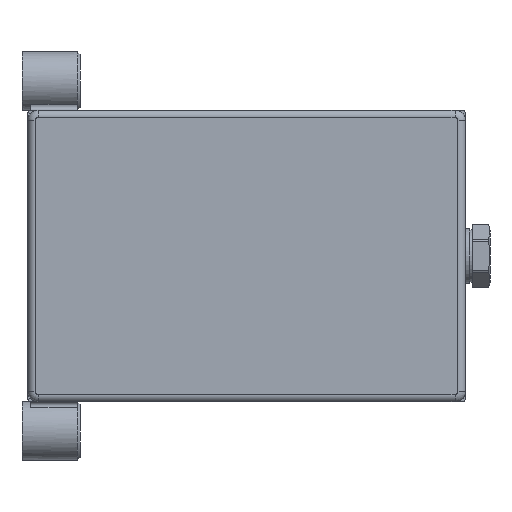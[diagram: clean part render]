
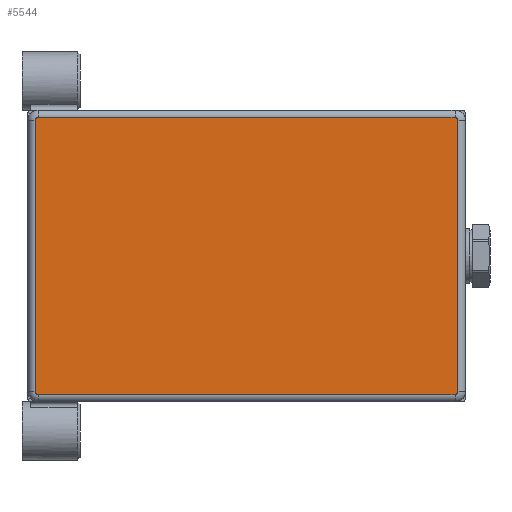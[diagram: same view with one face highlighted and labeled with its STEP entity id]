
A CAD part, front view. The second image highlights one B-rep face of the part: STEP entity #5544.
In plain terms, the highlighted planar face has unit normal (0, -1, 0).
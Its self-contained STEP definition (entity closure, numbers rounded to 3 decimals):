
#187 = CARTESIAN_POINT ( 'NONE',  ( -72.5, -3., -46.5 ) ) ;
#321 = VECTOR ( 'NONE', #1757, 1000. ) ;
#337 = CIRCLE ( 'NONE', #1374, 1. ) ;
#445 = DIRECTION ( 'NONE',  ( -1., 0., 0. ) ) ;
#476 = EDGE_CURVE ( 'NONE', #5140, #3856, #5287, .T. ) ;
#522 = ORIENTED_EDGE ( 'NONE', *, *, #3800, .F. ) ;
#568 = ORIENTED_EDGE ( 'NONE', *, *, #4368, .F. ) ;
#591 = DIRECTION ( 'NONE',  ( -1., 0., 0. ) ) ;
#665 = LINE ( 'NONE', #187, #2017 ) ;
#823 = ORIENTED_EDGE ( 'NONE', *, *, #476, .F. ) ;
#834 = CARTESIAN_POINT ( 'NONE',  ( -71.5, -3., 47.5 ) ) ;
#920 = DIRECTION ( 'NONE',  ( -1., 0., 0. ) ) ;
#986 = CARTESIAN_POINT ( 'NONE',  ( 72.5, -3., 46.5 ) ) ;
#1026 = DIRECTION ( 'NONE',  ( 0., -1., 0. ) ) ;
#1192 = VERTEX_POINT ( 'NONE', #3685 ) ;
#1374 = AXIS2_PLACEMENT_3D ( 'NONE', #2192, #5216, #920 ) ;
#1412 = VERTEX_POINT ( 'NONE', #3365 ) ;
#1457 = LINE ( 'NONE', #3530, #321 ) ;
#1463 = AXIS2_PLACEMENT_3D ( 'NONE', #3434, #5135, #445 ) ;
#1608 = CARTESIAN_POINT ( 'NONE',  ( 71.5, -3., -47.5 ) ) ;
#1621 = DIRECTION ( 'NONE',  ( 1., 0., 0. ) ) ;
#1757 = DIRECTION ( 'NONE',  ( -1., 0., 0. ) ) ;
#1907 = EDGE_LOOP ( 'NONE', ( #568, #2252, #1945, #2121, #823, #4590, #522, #3487 ) ) ;
#1908 = CARTESIAN_POINT ( 'NONE',  ( -71.5, -3., 47.5 ) ) ;
#1945 = ORIENTED_EDGE ( 'NONE', *, *, #3835, .F. ) ;
#1995 = FACE_OUTER_BOUND ( 'NONE', #1907, .T. ) ;
#2017 = VECTOR ( 'NONE', #2685, 1000. ) ;
#2121 = ORIENTED_EDGE ( 'NONE', *, *, #4164, .F. ) ;
#2148 = CARTESIAN_POINT ( 'NONE',  ( -72.5, -3., 46.5 ) ) ;
#2158 = DIRECTION ( 'NONE',  ( 0., 0., -1. ) ) ;
#2192 = CARTESIAN_POINT ( 'NONE',  ( 71.5, -3., -46.5 ) ) ;
#2252 = ORIENTED_EDGE ( 'NONE', *, *, #3344, .T. ) ;
#2256 = VERTEX_POINT ( 'NONE', #1608 ) ;
#2290 = AXIS2_PLACEMENT_3D ( 'NONE', #4535, #5004, #4959 ) ;
#2356 = VECTOR ( 'NONE', #3598, 1000. ) ;
#2587 = EDGE_CURVE ( 'NONE', #5140, #2840, #3102, .T. ) ;
#2685 = DIRECTION ( 'NONE',  ( 0., 0., 1. ) ) ;
#2840 = VERTEX_POINT ( 'NONE', #2148 ) ;
#2981 = CARTESIAN_POINT ( 'NONE',  ( 72.5, -3., -46.5 ) ) ;
#3017 = DIRECTION ( 'NONE',  ( 0., 1., 0. ) ) ;
#3102 = CIRCLE ( 'NONE', #3193, 1. ) ;
#3193 = AXIS2_PLACEMENT_3D ( 'NONE', #3218, #1026, #591 ) ;
#3218 = CARTESIAN_POINT ( 'NONE',  ( -71.5, -3., 46.5 ) ) ;
#3318 = LINE ( 'NONE', #986, #2356 ) ;
#3344 = EDGE_CURVE ( 'NONE', #2256, #4950, #337, .T. ) ;
#3365 = CARTESIAN_POINT ( 'NONE',  ( -71.5, -3., -47.5 ) ) ;
#3370 = CIRCLE ( 'NONE', #5379, 1. ) ;
#3412 = VECTOR ( 'NONE', #1621, 1000. ) ;
#3434 = CARTESIAN_POINT ( 'NONE',  ( 0., -3., 0. ) ) ;
#3487 = ORIENTED_EDGE ( 'NONE', *, *, #5365, .T. ) ;
#3530 = CARTESIAN_POINT ( 'NONE',  ( 71.5, -3., -47.5 ) ) ;
#3598 = DIRECTION ( 'NONE',  ( 0., 0., -1. ) ) ;
#3684 = VERTEX_POINT ( 'NONE', #3919 ) ;
#3685 = CARTESIAN_POINT ( 'NONE',  ( 72.5, -3., 46.5 ) ) ;
#3800 = EDGE_CURVE ( 'NONE', #3684, #2840, #665, .T. ) ;
#3835 = EDGE_CURVE ( 'NONE', #1192, #4950, #3318, .T. ) ;
#3856 = VERTEX_POINT ( 'NONE', #4888 ) ;
#3919 = CARTESIAN_POINT ( 'NONE',  ( -72.5, -3., -46.5 ) ) ;
#4164 = EDGE_CURVE ( 'NONE', #3856, #1192, #3370, .T. ) ;
#4317 = PLANE ( 'NONE',  #1463 ) ;
#4368 = EDGE_CURVE ( 'NONE', #2256, #1412, #1457, .T. ) ;
#4535 = CARTESIAN_POINT ( 'NONE',  ( -71.5, -3., -46.5 ) ) ;
#4590 = ORIENTED_EDGE ( 'NONE', *, *, #2587, .T. ) ;
#4722 = CARTESIAN_POINT ( 'NONE',  ( 71.5, -3., 46.5 ) ) ;
#4752 = CIRCLE ( 'NONE', #2290, 1. ) ;
#4888 = CARTESIAN_POINT ( 'NONE',  ( 71.5, -3., 47.5 ) ) ;
#4950 = VERTEX_POINT ( 'NONE', #2981 ) ;
#4959 = DIRECTION ( 'NONE',  ( -1., 0., 0. ) ) ;
#5004 = DIRECTION ( 'NONE',  ( 0., -1., 0. ) ) ;
#5135 = DIRECTION ( 'NONE',  ( 0., -1., 0. ) ) ;
#5140 = VERTEX_POINT ( 'NONE', #1908 ) ;
#5216 = DIRECTION ( 'NONE',  ( 0., -1., 0. ) ) ;
#5287 = LINE ( 'NONE', #834, #3412 ) ;
#5365 = EDGE_CURVE ( 'NONE', #3684, #1412, #4752, .T. ) ;
#5379 = AXIS2_PLACEMENT_3D ( 'NONE', #4722, #3017, #2158 ) ;
#5544 = ADVANCED_FACE ( 'NONE', ( #1995 ), #4317, .T. ) ;
